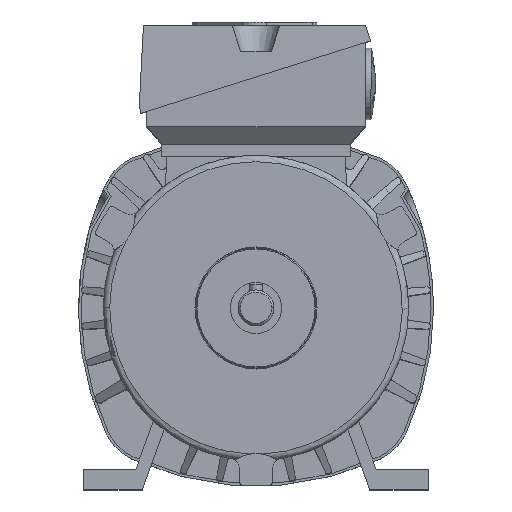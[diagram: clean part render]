
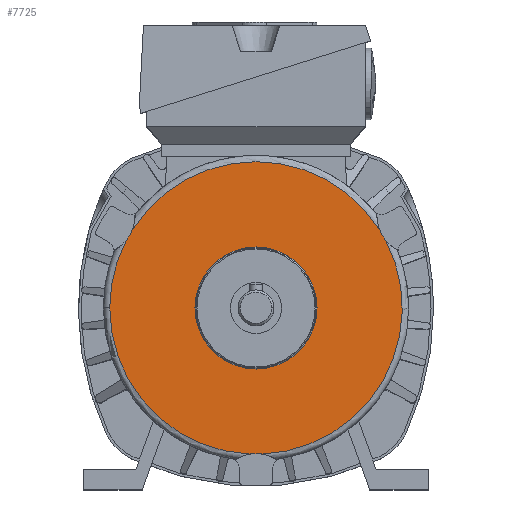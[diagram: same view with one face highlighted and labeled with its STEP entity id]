
A CAD part, top view. The second image highlights one B-rep face of the part: STEP entity #7725.
In plain terms, the highlighted planar face has unit normal (0, 0, 1).
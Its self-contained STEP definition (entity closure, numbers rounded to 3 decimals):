
#102 = EDGE_LOOP ( 'NONE', ( #7173, #12941 ) ) ;
#213 = CARTESIAN_POINT ( 'NONE',  ( -23.9, 0., 21. ) ) ;
#339 = DIRECTION ( 'NONE',  ( -1., 0., 0. ) ) ;
#977 = AXIS2_PLACEMENT_3D ( 'NONE', #4061, #9084, #5139 ) ;
#1133 = ORIENTED_EDGE ( 'NONE', *, *, #11111, .T. ) ;
#1631 = DIRECTION ( 'NONE',  ( 1., 0., 0. ) ) ;
#1733 = DIRECTION ( 'NONE',  ( -1., 0., 0. ) ) ;
#1753 = AXIS2_PLACEMENT_3D ( 'NONE', #11924, #13087, #1733 ) ;
#1986 = DIRECTION ( 'NONE',  ( 0., 0., -1. ) ) ;
#2508 = AXIS2_PLACEMENT_3D ( 'NONE', #15620, #12913, #1631 ) ;
#2539 = CARTESIAN_POINT ( 'NONE',  ( 0., 0., 21. ) ) ;
#2742 = CARTESIAN_POINT ( 'NONE',  ( 23.9, 0., 21. ) ) ;
#2766 = EDGE_CURVE ( 'NONE', #12922, #13330, #11560, .T. ) ;
#2831 = CIRCLE ( 'NONE', #11271, 15. ) ;
#3199 = EDGE_CURVE ( 'NONE', #3421, #13330, #5215, .T. ) ;
#3205 = CIRCLE ( 'NONE', #12209, 23.9 ) ;
#3421 = VERTEX_POINT ( 'NONE', #4095 ) ;
#3566 = AXIS2_PLACEMENT_3D ( 'NONE', #16345, #11223, #9968 ) ;
#4061 = CARTESIAN_POINT ( 'NONE',  ( 62.354, 36., 21. ) ) ;
#4095 = CARTESIAN_POINT ( 'NONE',  ( -48.32, 30.705, 21. ) ) ;
#4292 = CIRCLE ( 'NONE', #12762, 57.25 ) ;
#4312 = ORIENTED_EDGE ( 'NONE', *, *, #11163, .F. ) ;
#4605 = DIRECTION ( 'NONE',  ( 0., 0., -1. ) ) ;
#4926 = DIRECTION ( 'NONE',  ( 1., 0., 0. ) ) ;
#4945 = AXIS2_PLACEMENT_3D ( 'NONE', #12780, #8850, #339 ) ;
#5139 = DIRECTION ( 'NONE',  ( 1., 0., 0. ) ) ;
#5215 = CIRCLE ( 'NONE', #12133, 15. ) ;
#5530 = CARTESIAN_POINT ( 'NONE',  ( 0., 0., 21. ) ) ;
#5711 = DIRECTION ( 'NONE',  ( 1., 0., 0. ) ) ;
#5727 = CARTESIAN_POINT ( 'NONE',  ( 50.751, 26.494, 21. ) ) ;
#6435 = EDGE_CURVE ( 'NONE', #14290, #12922, #4292, .T. ) ;
#6515 = PLANE ( 'NONE',  #2508 ) ;
#6532 = VERTEX_POINT ( 'NONE', #213 ) ;
#6992 = ORIENTED_EDGE ( 'NONE', *, *, #2766, .F. ) ;
#7173 = ORIENTED_EDGE ( 'NONE', *, *, #13100, .T. ) ;
#7725 = ADVANCED_FACE ( 'NONE', ( #11747, #7834 ), #6515, .T. ) ;
#7834 = FACE_OUTER_BOUND ( 'NONE', #9647, .T. ) ;
#7932 = EDGE_CURVE ( 'NONE', #14625, #13345, #10698, .T. ) ;
#7992 = DIRECTION ( 'NONE',  ( 0., 0., -1. ) ) ;
#8086 = CIRCLE ( 'NONE', #977, 15. ) ;
#8321 = ORIENTED_EDGE ( 'NONE', *, *, #3199, .T. ) ;
#8547 = AXIS2_PLACEMENT_3D ( 'NONE', #5530, #7992, #13073 ) ;
#8850 = DIRECTION ( 'NONE',  ( 0., 0., -1. ) ) ;
#8860 = EDGE_CURVE ( 'NONE', #12320, #6532, #14384, .T. ) ;
#8961 = DIRECTION ( 'NONE',  ( 0., 0., -1. ) ) ;
#9084 = DIRECTION ( 'NONE',  ( 0., 0., -1. ) ) ;
#9222 = CARTESIAN_POINT ( 'NONE',  ( -57.25, 0., 21. ) ) ;
#9647 = EDGE_LOOP ( 'NONE', ( #4312, #8321, #6992, #10977, #1133, #13262, #11913 ) ) ;
#9968 = DIRECTION ( 'NONE',  ( -1., 0., 0. ) ) ;
#10095 = CARTESIAN_POINT ( 'NONE',  ( -50.751, 26.494, 21. ) ) ;
#10698 = CIRCLE ( 'NONE', #3566, 57.25 ) ;
#10977 = ORIENTED_EDGE ( 'NONE', *, *, #6435, .F. ) ;
#11015 = CARTESIAN_POINT ( 'NONE',  ( 0., 0., 21. ) ) ;
#11111 = EDGE_CURVE ( 'NONE', #14290, #13345, #2831, .T. ) ;
#11135 = CARTESIAN_POINT ( 'NONE',  ( -62.354, 36., 21. ) ) ;
#11163 = EDGE_CURVE ( 'NONE', #3421, #13907, #11824, .T. ) ;
#11223 = DIRECTION ( 'NONE',  ( 0., 0., -1. ) ) ;
#11271 = AXIS2_PLACEMENT_3D ( 'NONE', #14314, #14398, #5711 ) ;
#11560 = CIRCLE ( 'NONE', #4945, 57.25 ) ;
#11642 = DIRECTION ( 'NONE',  ( -1., 0., 0. ) ) ;
#11747 = FACE_BOUND ( 'NONE', #102, .T. ) ;
#11824 = CIRCLE ( 'NONE', #1753, 57.25 ) ;
#11913 = ORIENTED_EDGE ( 'NONE', *, *, #12309, .T. ) ;
#11924 = CARTESIAN_POINT ( 'NONE',  ( 0., 0., 21. ) ) ;
#12133 = AXIS2_PLACEMENT_3D ( 'NONE', #11135, #4605, #4926 ) ;
#12163 = CARTESIAN_POINT ( 'NONE',  ( 48.32, 30.705, 21. ) ) ;
#12209 = AXIS2_PLACEMENT_3D ( 'NONE', #2539, #8961, #11642 ) ;
#12309 = EDGE_CURVE ( 'NONE', #14625, #13907, #8086, .T. ) ;
#12320 = VERTEX_POINT ( 'NONE', #2742 ) ;
#12762 = AXIS2_PLACEMENT_3D ( 'NONE', #11015, #1986, #16059 ) ;
#12780 = CARTESIAN_POINT ( 'NONE',  ( 0., 0., 21. ) ) ;
#12913 = DIRECTION ( 'NONE',  ( 0., 0., 1. ) ) ;
#12922 = VERTEX_POINT ( 'NONE', #9222 ) ;
#12941 = ORIENTED_EDGE ( 'NONE', *, *, #8860, .T. ) ;
#13073 = DIRECTION ( 'NONE',  ( -1., 0., 0. ) ) ;
#13087 = DIRECTION ( 'NONE',  ( 0., 0., -1. ) ) ;
#13100 = EDGE_CURVE ( 'NONE', #6532, #12320, #3205, .T. ) ;
#13262 = ORIENTED_EDGE ( 'NONE', *, *, #7932, .F. ) ;
#13330 = VERTEX_POINT ( 'NONE', #10095 ) ;
#13345 = VERTEX_POINT ( 'NONE', #13606 ) ;
#13606 = CARTESIAN_POINT ( 'NONE',  ( 2.431, -57.198, 21. ) ) ;
#13907 = VERTEX_POINT ( 'NONE', #12163 ) ;
#14290 = VERTEX_POINT ( 'NONE', #15924 ) ;
#14314 = CARTESIAN_POINT ( 'NONE',  ( 0., -72., 21. ) ) ;
#14384 = CIRCLE ( 'NONE', #8547, 23.9 ) ;
#14398 = DIRECTION ( 'NONE',  ( 0., 0., -1. ) ) ;
#14625 = VERTEX_POINT ( 'NONE', #5727 ) ;
#15620 = CARTESIAN_POINT ( 'NONE',  ( 0., 57.25, 21. ) ) ;
#15924 = CARTESIAN_POINT ( 'NONE',  ( -2.431, -57.198, 21. ) ) ;
#16059 = DIRECTION ( 'NONE',  ( -1., 0., 0. ) ) ;
#16345 = CARTESIAN_POINT ( 'NONE',  ( 0., 0., 21. ) ) ;
